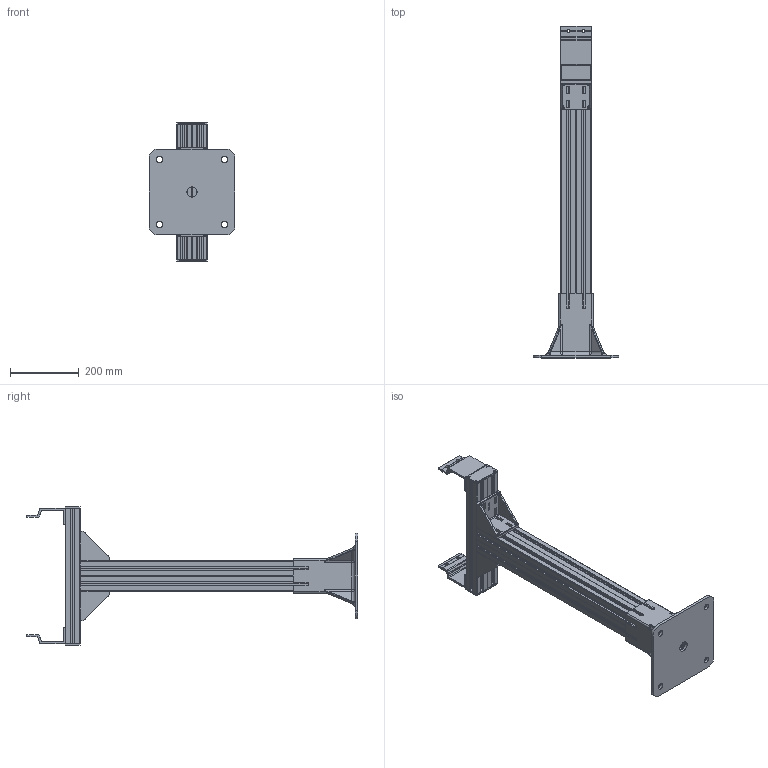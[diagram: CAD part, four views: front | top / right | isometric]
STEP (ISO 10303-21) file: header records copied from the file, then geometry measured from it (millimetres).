
FILE_DESCRIPTION (( 'STEP AP214' ), '1' );
FILE_NAME ('F2-1200-PC88.STEP', '2010-03-11T09:05:58', ( '.' ), ( '' ), 'SwSTEP 2.0', 'SolidWorks 2009', '' );
FILE_SCHEMA (( 'AUTOMOTIVE_DESIGN' ));
Length unit declared in the file: millimetre
Products named in the file (1): F2-1200-PC88
Bounding box: 250 x 966 x 404 mm (x, y, z)
Surface area: 920208 mm2 (no closed solid volume)
Topology: 0 solids, 40 shells, 562 faces, 2754 edges, 2161 vertices
Faces by surface type: plane 293, cylinder 224, bspline 33, sphere 12
Entity records: 38119 total; most frequent: CARTESIAN_POINT 10881, DIRECTION 4320, ORIENTED_EDGE 3717, EDGE_CURVE 2726, VERTEX_POINT 2161, VECTOR 1716, LINE 1716, AXIS2_PLACEMENT_3D 1302
